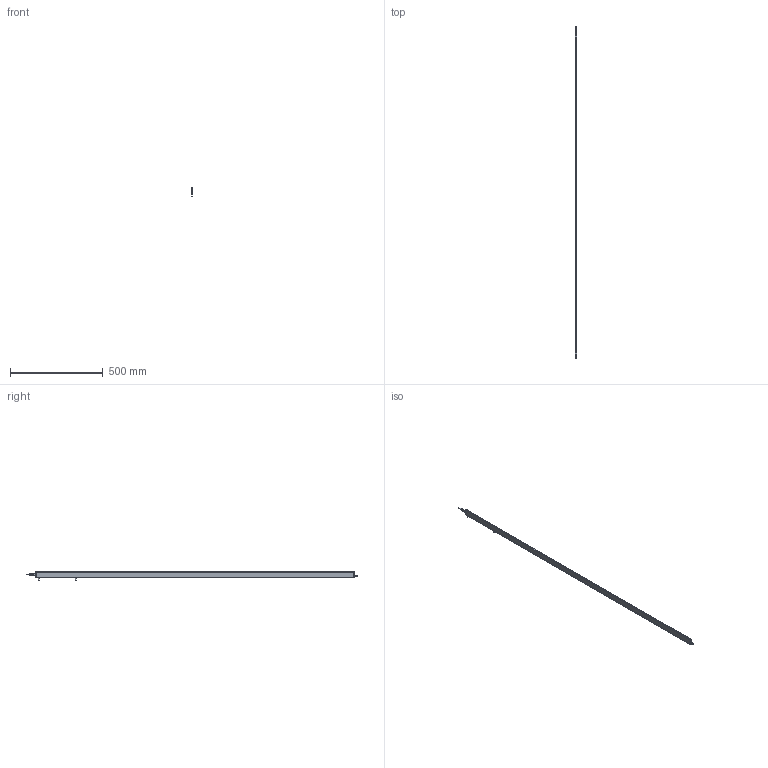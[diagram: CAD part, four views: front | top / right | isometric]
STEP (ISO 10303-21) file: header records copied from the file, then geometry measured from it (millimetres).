
FILE_DESCRIPTION (( 'STEP AP214' ), '1' );
FILE_NAME ('ILG-B-K2-1720mm.STEP', '2017-07-10T13:06:26', ( '' ), ( '' ), 'SwSTEP 2.0', 'SolidWorks 2016', '' );
FILE_SCHEMA (( 'AUTOMOTIVE_DESIGN' ));
Length unit declared in the file: millimetre
Products named in the file (1): ILG-B-K2-1720mm
Bounding box: 9 x 1793.5 x 46.21 mm (x, y, z)
Surface area: 286966.7 mm2 (no closed solid volume)
Topology: 0 solids, 15 shells, 702 faces, 1822 edges, 1157 vertices
Faces by surface type: cylinder 287, plane 266, cone 99, bspline 32, torus 18
Entity records: 31388 total; most frequent: CARTESIAN_POINT 6631, ORIENTED_EDGE 3597, DIRECTION 3488, EDGE_CURVE 1806, AXIS2_PLACEMENT_3D 1342, VERTEX_POINT 1157, LINE 804, VECTOR 804
